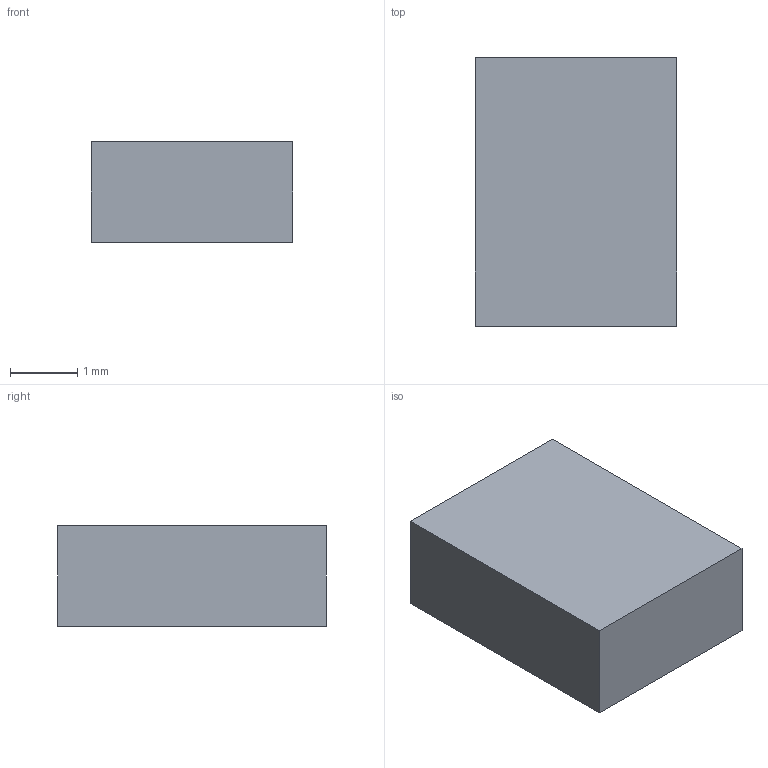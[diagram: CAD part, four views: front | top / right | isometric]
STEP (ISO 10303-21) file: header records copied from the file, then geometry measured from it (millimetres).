
FILE_DESCRIPTION(/* description */ ('STEP AP242 Edition 2','CAx-IF Rec.Pracs.---Representation and Presentation of Product Manufacturing Information (PMI)---4.0---2014-10-13','CAx-IF Rec.Pracs.---3D Tessellated Geometry---0.4---2014-09-14','2;1','CAx-IF Rec.Pracs.---User Defined Attributes---1.5---2016-08-15'),/* implementation_level */ '2;1');
FILE_NAME(/* name */ 'Drone Layout - Surface 1',/* time_stamp */ '2026-10-04T22:22:50Z',/* author */ (''),/* organization */ (''),/* preprocessor_version */ 'ST-DEVELOPER v20',/* originating_system */ 'ONSHAPE BY PTC INC, 1.221',/* authorisation */ ' ');
FILE_SCHEMA (('AP242_MANAGED_MODEL_BASED_3D_ENGINEERING_MIM_LF { 1 0 10303 442 3 1 4 }'));
Length unit declared in the file: metre
Products named in the file (1): switch:1__base
Bounding box: 3 x 4 x 1.5 mm (x, y, z)
Volume: 18 mm3; surface area: 45 mm2
Topology: 1 solids, 1 shells, 6 faces, 12 edges, 8 vertices
Faces by surface type: plane 6
Entity records: 169 total; most frequent: CARTESIAN_POINT 27, DIRECTION 26, ORIENTED_EDGE 24, EDGE_CURVE 12, LINE 12, VECTOR 12, VERTEX_POINT 8, AXIS2_PLACEMENT_3D 7
